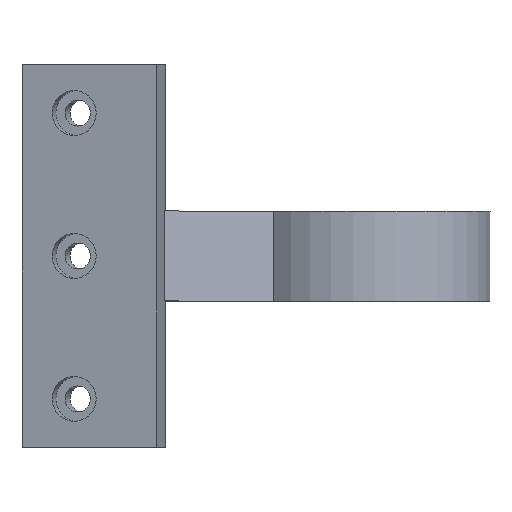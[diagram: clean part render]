
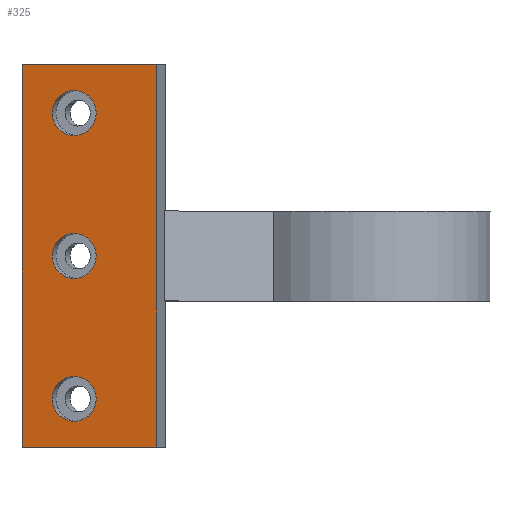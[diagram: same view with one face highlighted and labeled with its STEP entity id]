
A CAD part, top view. The second image highlights one B-rep face of the part: STEP entity #325.
In plain terms, the highlighted planar face has unit normal (-0.216, 0, 0.976).
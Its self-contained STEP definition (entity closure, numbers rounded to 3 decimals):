
#24 = VERTEX_POINT('',#25);
#25 = CARTESIAN_POINT('',(-1.27,0.2,-179.422));
#32 = PLANE('',#33);
#33 = AXIS2_PLACEMENT_3D('',#34,#35,#36);
#34 = CARTESIAN_POINT('',(0.245,0.2,-186.256));
#35 = DIRECTION('',(0.976,0.,0.216));
#36 = DIRECTION('',(-0.216,0.,0.976));
#44 = PLANE('',#45);
#45 = AXIS2_PLACEMENT_3D('',#46,#47,#48);
#46 = CARTESIAN_POINT('',(0.245,0.2,-186.256));
#47 = DIRECTION('',(0.,1.,0.));
#48 = DIRECTION('',(-0.216,0.,0.976));
#85 = VERTEX_POINT('',#86);
#86 = CARTESIAN_POINT('',(-1.27,68.2,-179.422));
#100 = PLANE('',#101);
#101 = AXIS2_PLACEMENT_3D('',#102,#103,#104);
#102 = CARTESIAN_POINT('',(0.245,68.2,-186.256));
#103 = DIRECTION('',(0.,1.,0.));
#104 = DIRECTION('',(-0.216,0.,0.976));
#112 = EDGE_CURVE('',#24,#85,#113,.T.);
#113 = SURFACE_CURVE('',#114,(#118,#125),.PCURVE_S1.);
#114 = LINE('',#115,#116);
#115 = CARTESIAN_POINT('',(-1.27,0.2,-179.422));
#116 = VECTOR('',#117,1.);
#117 = DIRECTION('',(0.,1.,0.));
#118 = PCURVE('',#32,#119);
#119 = DEFINITIONAL_REPRESENTATION('',(#120),#124);
#120 = LINE('',#121,#122);
#121 = CARTESIAN_POINT('',(7.,0.));
#122 = VECTOR('',#123,1.);
#123 = DIRECTION('',(0.,-1.));
#124 = ( GEOMETRIC_REPRESENTATION_CONTEXT(2) 
PARAMETRIC_REPRESENTATION_CONTEXT() REPRESENTATION_CONTEXT('2D SPACE',''
  ) );
#125 = PCURVE('',#126,#131);
#126 = PLANE('',#127);
#127 = AXIS2_PLACEMENT_3D('',#128,#129,#130);
#128 = CARTESIAN_POINT('',(-1.27,0.2,-179.422));
#129 = DIRECTION('',(-0.216,0.,0.976));
#130 = DIRECTION('',(0.976,0.,0.216));
#131 = DEFINITIONAL_REPRESENTATION('',(#132),#136);
#132 = LINE('',#133,#134);
#133 = CARTESIAN_POINT('',(0.,0.));
#134 = VECTOR('',#135,1.);
#135 = DIRECTION('',(0.,1.));
#136 = ( GEOMETRIC_REPRESENTATION_CONTEXT(2) 
PARAMETRIC_REPRESENTATION_CONTEXT() REPRESENTATION_CONTEXT('2D SPACE',''
  ) );
#165 = EDGE_CURVE('',#24,#166,#168,.T.);
#166 = VERTEX_POINT('',#167);
#167 = CARTESIAN_POINT('',(22.649,0.2,-174.119));
#168 = SURFACE_CURVE('',#169,(#173,#180),.PCURVE_S1.);
#169 = LINE('',#170,#171);
#170 = CARTESIAN_POINT('',(-1.27,0.2,-179.422));
#171 = VECTOR('',#172,1.);
#172 = DIRECTION('',(0.976,0.,0.216));
#173 = PCURVE('',#44,#174);
#174 = DEFINITIONAL_REPRESENTATION('',(#175),#179);
#175 = LINE('',#176,#177);
#176 = CARTESIAN_POINT('',(7.,0.));
#177 = VECTOR('',#178,1.);
#178 = DIRECTION('',(0.,1.));
#179 = ( GEOMETRIC_REPRESENTATION_CONTEXT(2) 
PARAMETRIC_REPRESENTATION_CONTEXT() REPRESENTATION_CONTEXT('2D SPACE',''
  ) );
#180 = PCURVE('',#126,#181);
#181 = DEFINITIONAL_REPRESENTATION('',(#182),#186);
#182 = LINE('',#183,#184);
#183 = CARTESIAN_POINT('',(0.,0.));
#184 = VECTOR('',#185,1.);
#185 = DIRECTION('',(1.,0.));
#186 = ( GEOMETRIC_REPRESENTATION_CONTEXT(2) 
PARAMETRIC_REPRESENTATION_CONTEXT() REPRESENTATION_CONTEXT('2D SPACE',''
  ) );
#204 = PLANE('',#205);
#205 = AXIS2_PLACEMENT_3D('',#206,#207,#208);
#206 = CARTESIAN_POINT('',(24.164,0.2,-180.953));
#207 = DIRECTION('',(0.976,0.,0.216));
#208 = DIRECTION('',(-0.216,0.,0.976));
#325 = ADVANCED_FACE('',(#326,#374,#409,#444),#126,.T.);
#326 = FACE_BOUND('',#327,.T.);
#327 = EDGE_LOOP('',(#328,#329,#330,#353));
#328 = ORIENTED_EDGE('',*,*,#112,.F.);
#329 = ORIENTED_EDGE('',*,*,#165,.T.);
#330 = ORIENTED_EDGE('',*,*,#331,.T.);
#331 = EDGE_CURVE('',#166,#332,#334,.T.);
#332 = VERTEX_POINT('',#333);
#333 = CARTESIAN_POINT('',(22.649,68.2,-174.119));
#334 = SURFACE_CURVE('',#335,(#339,#346),.PCURVE_S1.);
#335 = LINE('',#336,#337);
#336 = CARTESIAN_POINT('',(22.649,0.2,-174.119));
#337 = VECTOR('',#338,1.);
#338 = DIRECTION('',(0.,1.,0.));
#339 = PCURVE('',#126,#340);
#340 = DEFINITIONAL_REPRESENTATION('',(#341),#345);
#341 = LINE('',#342,#343);
#342 = CARTESIAN_POINT('',(24.5,0.));
#343 = VECTOR('',#344,1.);
#344 = DIRECTION('',(0.,1.));
#345 = ( GEOMETRIC_REPRESENTATION_CONTEXT(2) 
PARAMETRIC_REPRESENTATION_CONTEXT() REPRESENTATION_CONTEXT('2D SPACE',''
  ) );
#346 = PCURVE('',#204,#347);
#347 = DEFINITIONAL_REPRESENTATION('',(#348),#352);
#348 = LINE('',#349,#350);
#349 = CARTESIAN_POINT('',(7.,0.));
#350 = VECTOR('',#351,1.);
#351 = DIRECTION('',(0.,-1.));
#352 = ( GEOMETRIC_REPRESENTATION_CONTEXT(2) 
PARAMETRIC_REPRESENTATION_CONTEXT() REPRESENTATION_CONTEXT('2D SPACE',''
  ) );
#353 = ORIENTED_EDGE('',*,*,#354,.F.);
#354 = EDGE_CURVE('',#85,#332,#355,.T.);
#355 = SURFACE_CURVE('',#356,(#360,#367),.PCURVE_S1.);
#356 = LINE('',#357,#358);
#357 = CARTESIAN_POINT('',(-1.27,68.2,-179.422));
#358 = VECTOR('',#359,1.);
#359 = DIRECTION('',(0.976,0.,0.216));
#360 = PCURVE('',#126,#361);
#361 = DEFINITIONAL_REPRESENTATION('',(#362),#366);
#362 = LINE('',#363,#364);
#363 = CARTESIAN_POINT('',(0.,68.));
#364 = VECTOR('',#365,1.);
#365 = DIRECTION('',(1.,0.));
#366 = ( GEOMETRIC_REPRESENTATION_CONTEXT(2) 
PARAMETRIC_REPRESENTATION_CONTEXT() REPRESENTATION_CONTEXT('2D SPACE',''
  ) );
#367 = PCURVE('',#100,#368);
#368 = DEFINITIONAL_REPRESENTATION('',(#369),#373);
#369 = LINE('',#370,#371);
#370 = CARTESIAN_POINT('',(7.,0.));
#371 = VECTOR('',#372,1.);
#372 = DIRECTION('',(0.,1.));
#373 = ( GEOMETRIC_REPRESENTATION_CONTEXT(2) 
PARAMETRIC_REPRESENTATION_CONTEXT() REPRESENTATION_CONTEXT('2D SPACE',''
  ) );
#374 = FACE_BOUND('',#375,.T.);
#375 = EDGE_LOOP('',(#376));
#376 = ORIENTED_EDGE('',*,*,#377,.T.);
#377 = EDGE_CURVE('',#378,#378,#380,.T.);
#378 = VERTEX_POINT('',#379);
#379 = CARTESIAN_POINT('',(8.005,12.8,-177.366));
#380 = SURFACE_CURVE('',#381,(#386,#397),.PCURVE_S1.);
#381 = CIRCLE('',#382,4.);
#382 = AXIS2_PLACEMENT_3D('',#383,#384,#385);
#383 = CARTESIAN_POINT('',(8.005,8.8,-177.366));
#384 = DIRECTION('',(0.216,0.,-0.976));
#385 = DIRECTION('',(0.,1.,0.));
#386 = PCURVE('',#126,#387);
#387 = DEFINITIONAL_REPRESENTATION('',(#388),#396);
#388 = ( BOUNDED_CURVE() B_SPLINE_CURVE(2,(#389,#390,#391,#392,#393,#394
,#395),.UNSPECIFIED.,.T.,.F.) B_SPLINE_CURVE_WITH_KNOTS((1,2,2,2,2,1),(
    -2.094,0.,2.094,4.189,6.283,
8.378),.UNSPECIFIED.) CURVE() GEOMETRIC_REPRESENTATION_ITEM() 
RATIONAL_B_SPLINE_CURVE((1.,0.5,1.,0.5,1.,0.5,1.)) REPRESENTATION_ITEM(
  '') );
#389 = CARTESIAN_POINT('',(9.5,12.6));
#390 = CARTESIAN_POINT('',(16.428,12.6));
#391 = CARTESIAN_POINT('',(12.964,6.6));
#392 = CARTESIAN_POINT('',(9.5,0.6));
#393 = CARTESIAN_POINT('',(6.036,6.6));
#394 = CARTESIAN_POINT('',(2.572,12.6));
#395 = CARTESIAN_POINT('',(9.5,12.6));
#396 = ( GEOMETRIC_REPRESENTATION_CONTEXT(2) 
PARAMETRIC_REPRESENTATION_CONTEXT() REPRESENTATION_CONTEXT('2D SPACE',''
  ) );
#397 = PCURVE('',#398,#403);
#398 = CYLINDRICAL_SURFACE('',#399,4.);
#399 = AXIS2_PLACEMENT_3D('',#400,#401,#402);
#400 = CARTESIAN_POINT('',(8.654,8.8,-180.295));
#401 = DIRECTION('',(0.216,0.,-0.976));
#402 = DIRECTION('',(0.,1.,0.));
#403 = DEFINITIONAL_REPRESENTATION('',(#404),#408);
#404 = LINE('',#405,#406);
#405 = CARTESIAN_POINT('',(-6.283,-3.));
#406 = VECTOR('',#407,1.);
#407 = DIRECTION('',(1.,-0.));
#408 = ( GEOMETRIC_REPRESENTATION_CONTEXT(2) 
PARAMETRIC_REPRESENTATION_CONTEXT() REPRESENTATION_CONTEXT('2D SPACE',''
  ) );
#409 = FACE_BOUND('',#410,.T.);
#410 = EDGE_LOOP('',(#411));
#411 = ORIENTED_EDGE('',*,*,#412,.T.);
#412 = EDGE_CURVE('',#413,#413,#415,.T.);
#413 = VERTEX_POINT('',#414);
#414 = CARTESIAN_POINT('',(8.005,38.2,-177.366));
#415 = SURFACE_CURVE('',#416,(#421,#432),.PCURVE_S1.);
#416 = CIRCLE('',#417,4.);
#417 = AXIS2_PLACEMENT_3D('',#418,#419,#420);
#418 = CARTESIAN_POINT('',(8.005,34.2,-177.366));
#419 = DIRECTION('',(0.216,0.,-0.976));
#420 = DIRECTION('',(0.,1.,0.));
#421 = PCURVE('',#126,#422);
#422 = DEFINITIONAL_REPRESENTATION('',(#423),#431);
#423 = ( BOUNDED_CURVE() B_SPLINE_CURVE(2,(#424,#425,#426,#427,#428,#429
,#430),.UNSPECIFIED.,.T.,.F.) B_SPLINE_CURVE_WITH_KNOTS((1,2,2,2,2,1),(
    -2.094,0.,2.094,4.189,6.283,
8.378),.UNSPECIFIED.) CURVE() GEOMETRIC_REPRESENTATION_ITEM() 
RATIONAL_B_SPLINE_CURVE((1.,0.5,1.,0.5,1.,0.5,1.)) REPRESENTATION_ITEM(
  '') );
#424 = CARTESIAN_POINT('',(9.5,38.));
#425 = CARTESIAN_POINT('',(16.428,38.));
#426 = CARTESIAN_POINT('',(12.964,32.));
#427 = CARTESIAN_POINT('',(9.5,26.));
#428 = CARTESIAN_POINT('',(6.036,32.));
#429 = CARTESIAN_POINT('',(2.572,38.));
#430 = CARTESIAN_POINT('',(9.5,38.));
#431 = ( GEOMETRIC_REPRESENTATION_CONTEXT(2) 
PARAMETRIC_REPRESENTATION_CONTEXT() REPRESENTATION_CONTEXT('2D SPACE',''
  ) );
#432 = PCURVE('',#433,#438);
#433 = CYLINDRICAL_SURFACE('',#434,4.);
#434 = AXIS2_PLACEMENT_3D('',#435,#436,#437);
#435 = CARTESIAN_POINT('',(8.654,34.2,-180.295));
#436 = DIRECTION('',(0.216,0.,-0.976));
#437 = DIRECTION('',(0.,1.,0.));
#438 = DEFINITIONAL_REPRESENTATION('',(#439),#443);
#439 = LINE('',#440,#441);
#440 = CARTESIAN_POINT('',(-6.283,-3.));
#441 = VECTOR('',#442,1.);
#442 = DIRECTION('',(1.,-0.));
#443 = ( GEOMETRIC_REPRESENTATION_CONTEXT(2) 
PARAMETRIC_REPRESENTATION_CONTEXT() REPRESENTATION_CONTEXT('2D SPACE',''
  ) );
#444 = FACE_BOUND('',#445,.T.);
#445 = EDGE_LOOP('',(#446));
#446 = ORIENTED_EDGE('',*,*,#447,.T.);
#447 = EDGE_CURVE('',#448,#448,#450,.T.);
#448 = VERTEX_POINT('',#449);
#449 = CARTESIAN_POINT('',(8.005,63.6,-177.366));
#450 = SURFACE_CURVE('',#451,(#456,#467),.PCURVE_S1.);
#451 = CIRCLE('',#452,4.);
#452 = AXIS2_PLACEMENT_3D('',#453,#454,#455);
#453 = CARTESIAN_POINT('',(8.005,59.6,-177.366));
#454 = DIRECTION('',(0.216,0.,-0.976));
#455 = DIRECTION('',(0.,1.,0.));
#456 = PCURVE('',#126,#457);
#457 = DEFINITIONAL_REPRESENTATION('',(#458),#466);
#458 = ( BOUNDED_CURVE() B_SPLINE_CURVE(2,(#459,#460,#461,#462,#463,#464
,#465),.UNSPECIFIED.,.T.,.F.) B_SPLINE_CURVE_WITH_KNOTS((1,2,2,2,2,1),(
    -2.094,0.,2.094,4.189,6.283,
8.378),.UNSPECIFIED.) CURVE() GEOMETRIC_REPRESENTATION_ITEM() 
RATIONAL_B_SPLINE_CURVE((1.,0.5,1.,0.5,1.,0.5,1.)) REPRESENTATION_ITEM(
  '') );
#459 = CARTESIAN_POINT('',(9.5,63.4));
#460 = CARTESIAN_POINT('',(16.428,63.4));
#461 = CARTESIAN_POINT('',(12.964,57.4));
#462 = CARTESIAN_POINT('',(9.5,51.4));
#463 = CARTESIAN_POINT('',(6.036,57.4));
#464 = CARTESIAN_POINT('',(2.572,63.4));
#465 = CARTESIAN_POINT('',(9.5,63.4));
#466 = ( GEOMETRIC_REPRESENTATION_CONTEXT(2) 
PARAMETRIC_REPRESENTATION_CONTEXT() REPRESENTATION_CONTEXT('2D SPACE',''
  ) );
#467 = PCURVE('',#468,#473);
#468 = CYLINDRICAL_SURFACE('',#469,4.);
#469 = AXIS2_PLACEMENT_3D('',#470,#471,#472);
#470 = CARTESIAN_POINT('',(8.654,59.6,-180.295));
#471 = DIRECTION('',(0.216,0.,-0.976));
#472 = DIRECTION('',(0.,1.,0.));
#473 = DEFINITIONAL_REPRESENTATION('',(#474),#478);
#474 = LINE('',#475,#476);
#475 = CARTESIAN_POINT('',(-6.283,-3.));
#476 = VECTOR('',#477,1.);
#477 = DIRECTION('',(1.,-0.));
#478 = ( GEOMETRIC_REPRESENTATION_CONTEXT(2) 
PARAMETRIC_REPRESENTATION_CONTEXT() REPRESENTATION_CONTEXT('2D SPACE',''
  ) );
